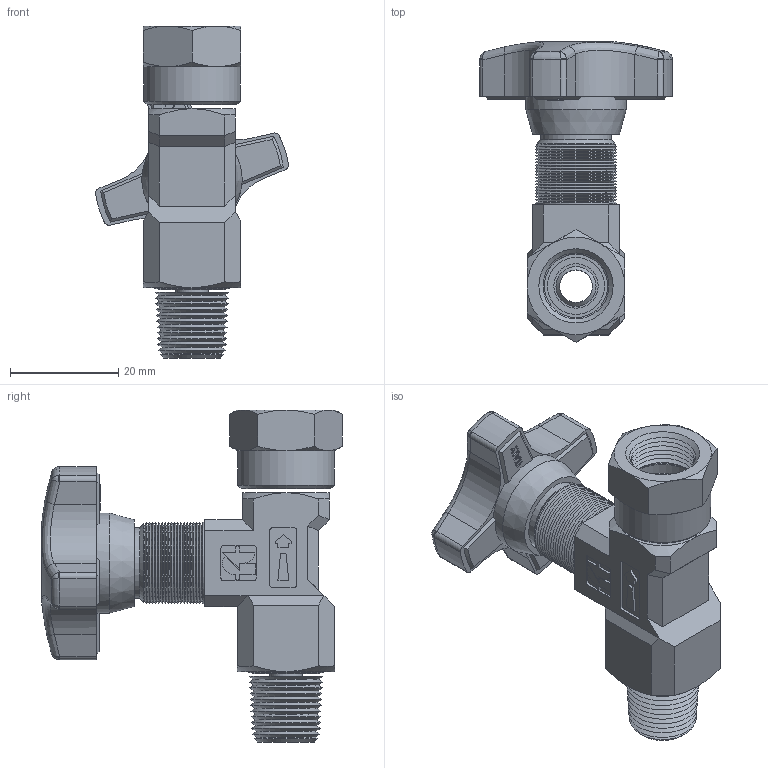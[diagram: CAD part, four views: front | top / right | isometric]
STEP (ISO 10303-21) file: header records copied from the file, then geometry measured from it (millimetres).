
FILE_DESCRIPTION (( 'STEP AP214' ), '1' );
FILE_NAME ('ASSIEME 290-14 M-F.STEP', '2023-10-16T12:11:13', ( '' ), ( '' ), 'SwSTEP 2.0', 'SolidWorks 2023', '' );
FILE_SCHEMA (( 'AUTOMOTIVE_DESIGN' ));
Length unit declared in the file: millimetre
Products named in the file (1): ASSIEME 290-14 M-F
Bounding box: 35.59 x 55.47 x 61.26 mm (x, y, z)
Surface area: 9735.5 mm2 (no closed solid volume)
Topology: 0 solids, 13 shells, 467 faces, 1287 edges, 825 vertices
Faces by surface type: plane 253, cone 102, cylinder 53, bspline 52, torus 6, sphere 1
Full cylindrical faces by diameter (mm): 6 x1, 8 x1, 13 x1, 14 x1, 15 x1, 17.8 x1, 18.5 x1
Entity records: 16685 total; most frequent: CARTESIAN_POINT 5651, ORIENTED_EDGE 2184, DIRECTION 2121, EDGE_CURVE 1183, VERTEX_POINT 816, VECTOR 733, LINE 733, AXIS2_PLACEMENT_3D 694
